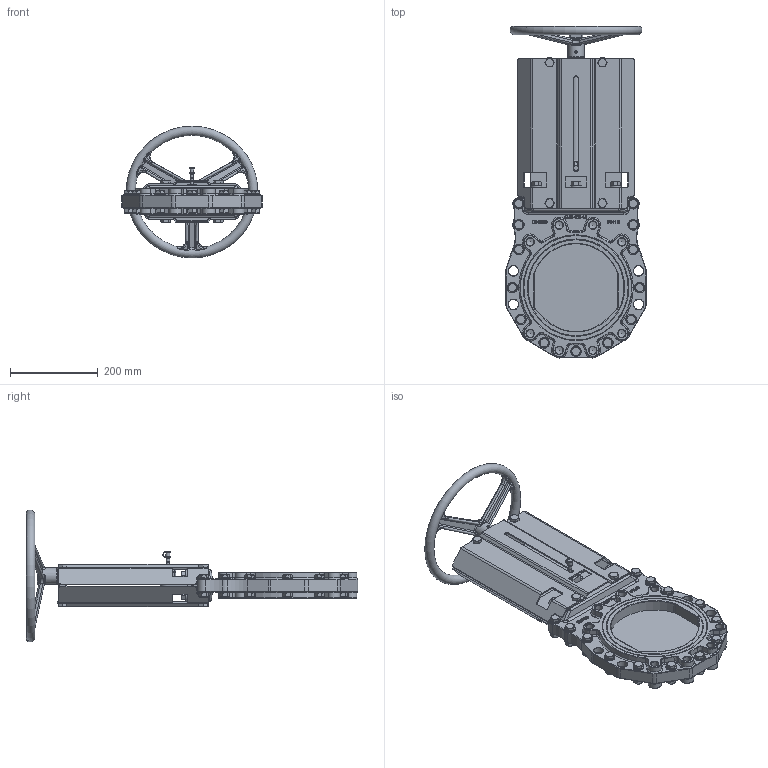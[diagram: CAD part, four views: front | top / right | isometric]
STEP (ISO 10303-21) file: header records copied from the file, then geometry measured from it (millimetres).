
FILE_DESCRIPTION(/* description */ (''),/* implementation_level */ '2;1');
FILE_NAME(/* name */ 'Non-rising stem knife gate valve with handwheel DN200-16.stp',/* time_stamp */ '2025-04-02T09:37:05+08:00',/* author */ (''),/* organization */ (''),/* preprocessor_version */ 'ST-DEVELOPER v15',/* originating_system */ 'SIEMENS PLM Software NX 10.0',/* authorisation */ '');
FILE_SCHEMA (('AP203_CONFIGURATION_CONTROLLED_3D_DESIGN_OF_MECHANICAL_PARTS_AND_ASSEMBLIES_MIM_LF { 1 0 10303 403 2 1 2}'));
Products named in the file (1): Admi271CEB492ez3
Bounding box: 319.95 x 755.47 x 299.97 mm (x, y, z)
Volume: 5139797.4 mm3; surface area: 1002160.2 mm2
Topology: 1 solids, 29 shells, 3150 faces, 7627 edges, 4718 vertices
Faces by surface type: plane 1225, cylinder 690, bspline 426, cone 302, torus 243, extrusion 220, sphere 44
Full cylindrical faces by diameter (mm): 6 x3, 8 x1, 9 x1, 9.188 x2, 10 x2, 10.106 x6, 10.5 x2, 11.053 x13, 11.5 x1, 12 x32, 13 x32, 15.4 x2, 17.2 x21, 17.294 x16, 18.5 x1, 20 x4, 23 x8, 24 x33, 35 x3, 38 x1
Entity records: 97814 total; most frequent: CARTESIAN_POINT 30334, ORIENTED_EDGE 14246, DIRECTION 12243, EDGE_CURVE 7123, VERTEX_POINT 4617, AXIS2_PLACEMENT_3D 4514, EDGE_LOOP 3824, VECTOR 3215
